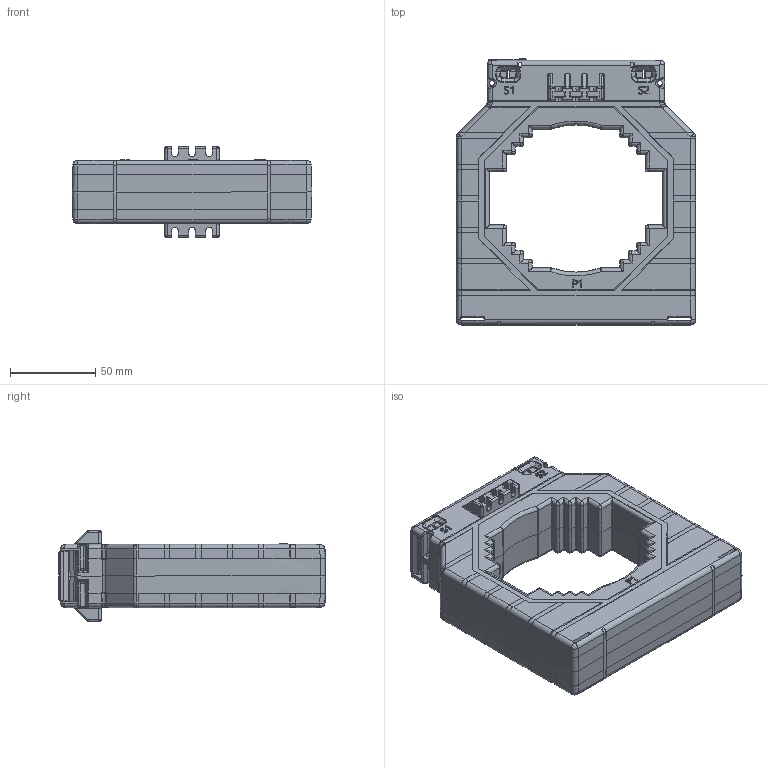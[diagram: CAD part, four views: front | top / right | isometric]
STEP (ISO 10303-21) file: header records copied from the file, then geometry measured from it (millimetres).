
FILE_DESCRIPTION (( 'STEP AP203' ), '1' );
FILE_NAME ('CT100.STEP', '2022-12-02T13:45:36', ( '' ), ( '' ), 'SwSTEP 2.0', 'SolidWorks 2022', '' );
FILE_SCHEMA (( 'CONFIG_CONTROL_DESIGN' ));
Products named in the file (1): CT100
Bounding box: 140 x 155.6 x 53 mm (x, y, z)
Surface area: 66828.1 mm2 (no closed solid volume)
Topology: 0 solids, 16 shells, 1461 faces, 4003 edges, 2425 vertices
Faces by surface type: plane 670, cylinder 494, bspline 259, cone 38
Entity records: 75630 total; most frequent: CARTESIAN_POINT 43330, ORIENTED_EDGE 7391, DIRECTION 5154, EDGE_CURVE 3911, VERTEX_POINT 2425, LINE 2248, VECTOR 2248, EDGE_LOOP 1487
